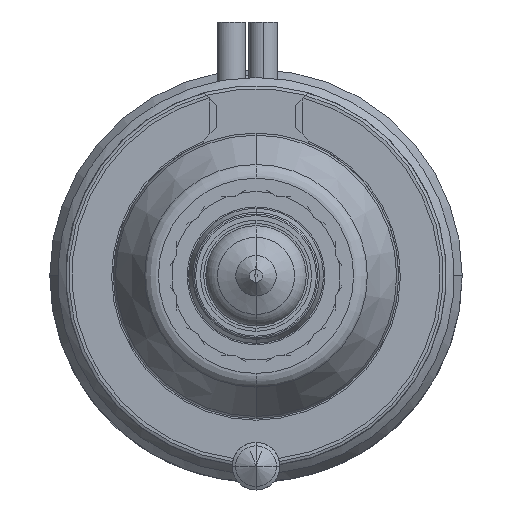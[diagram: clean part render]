
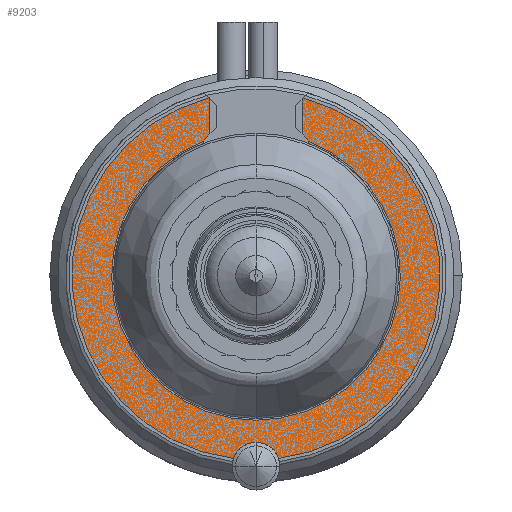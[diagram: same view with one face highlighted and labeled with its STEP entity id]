
A CAD part, front view. The second image highlights one B-rep face of the part: STEP entity #9203.
In plain terms, the highlighted planar face has unit normal (0, -1, 0).
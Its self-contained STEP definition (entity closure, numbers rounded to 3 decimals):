
#594=DIRECTION('',(0.707,0.,-0.707));
#595=VECTOR('',#594,0.092);
#596=CARTESIAN_POINT('',(-2.965,-22.,11.215));
#597=LINE('',#596,#595);
#1553=CARTESIAN_POINT('',(0.,-22.,6.2));
#1554=DIRECTION('',(0.,1.,0.));
#1555=DIRECTION('',(0.725,0.,0.689));
#1556=AXIS2_PLACEMENT_3D('',#1553,#1554,#1555);
#1568=CARTESIAN_POINT('',(0.,-22.,-12.));
#1569=DIRECTION('',(0.,1.,0.));
#1570=DIRECTION('',(-0.946,0.,0.325));
#1571=AXIS2_PLACEMENT_3D('',#1568,#1569,#1570);
#1587=CARTESIAN_POINT('',(0.,-22.,0.));
#1588=DIRECTION('',(0.,1.,0.));
#1589=DIRECTION('',(-0.122,0.,-0.992));
#1590=AXIS2_PLACEMENT_3D('',#1587,#1588,#1589);
#1599=CARTESIAN_POINT('',(0.,-22.,0.));
#1600=DIRECTION('',(0.,1.,0.));
#1601=DIRECTION('',(0.256,0.,0.967));
#1602=AXIS2_PLACEMENT_3D('',#1599,#1600,#1601);
#1615=DIRECTION('',(-0.707,0.,-0.707));
#1616=VECTOR('',#1615,0.092);
#1617=CARTESIAN_POINT('',(2.965,-22.,11.215));
#1618=LINE('',#1617,#1616);
#1623=DIRECTION('',(0.,0.,-1.));
#1624=VECTOR('',#1623,2.195);
#1625=CARTESIAN_POINT('',(2.9,-22.,11.15));
#1626=LINE('',#1625,#1624);
#1654=DIRECTION('',(0.,0.,1.));
#1655=VECTOR('',#1654,2.195);
#1656=CARTESIAN_POINT('',(-2.9,-22.,8.955));
#1657=LINE('',#1656,#1655);
#1689=CARTESIAN_POINT('',(0.,-22.,6.2));
#1690=DIRECTION('',(0.,1.,0.));
#1691=DIRECTION('',(-0.82,0.,0.572));
#1692=AXIS2_PLACEMENT_3D('',#1689,#1690,#1691);
#1704=CARTESIAN_POINT('',(0.,-22.,0.));
#1705=DIRECTION('',(0.,-1.,0.));
#1706=DIRECTION('',(-0.361,0.,0.933));
#1707=AXIS2_PLACEMENT_3D('',#1704,#1705,#1706);
#7391=CARTESIAN_POINT('',(2.965,-22.,11.215));
#7392=CARTESIAN_POINT('',(2.9,-22.,11.15));
#7393=VERTEX_POINT('',#7391);
#7394=VERTEX_POINT('',#7392);
#7399=CARTESIAN_POINT('',(-2.965,-22.,11.215));
#7400=CARTESIAN_POINT('',(-2.9,-22.,11.15));
#7401=VERTEX_POINT('',#7399);
#7402=VERTEX_POINT('',#7400);
#7437=CARTESIAN_POINT('',(2.9,-22.,8.955));
#7438=CARTESIAN_POINT('',(3.281,-22.,8.488));
#7439=VERTEX_POINT('',#7437);
#7440=VERTEX_POINT('',#7438);
#7441=CARTESIAN_POINT('',(-3.281,-22.,8.488));
#7442=CARTESIAN_POINT('',(-2.9,-22.,8.955));
#7443=VERTEX_POINT('',#7441);
#7444=VERTEX_POINT('',#7442);
#7586=CARTESIAN_POINT('',(-1.419,-22.,-11.513));
#7587=CARTESIAN_POINT('',(1.419,-22.,-11.513));
#7588=VERTEX_POINT('',#7586);
#7589=VERTEX_POINT('',#7587);
#9179=CARTESIAN_POINT('',(0.,-22.,0.));
#9180=DIRECTION('',(0.,-1.,0.));
#9181=DIRECTION('',(-1.,0.,0.));
#9182=AXIS2_PLACEMENT_3D('',#9179,#9180,#9181);
#9183=PLANE('',#9182);
#9184=ORIENTED_EDGE('',*,*,#8666,.F.);
#9186=ORIENTED_EDGE('',*,*,#9185,.T.);
#9187=ORIENTED_EDGE('',*,*,#8786,.T.);
#9189=ORIENTED_EDGE('',*,*,#9188,.F.);
#9191=ORIENTED_EDGE('',*,*,#9190,.F.);
#9193=ORIENTED_EDGE('',*,*,#9192,.T.);
#9194=ORIENTED_EDGE('',*,*,#9158,.F.);
#9196=ORIENTED_EDGE('',*,*,#9195,.F.);
#9198=ORIENTED_EDGE('',*,*,#9197,.F.);
#9200=ORIENTED_EDGE('',*,*,#9199,.T.);
#9201=EDGE_LOOP('',(#9184,#9186,#9187,#9189,#9191,#9193,#9194,#9196,#9198,
#9200));
#9202=FACE_OUTER_BOUND('',#9201,.F.);
#9203=ADVANCED_FACE('',(#9202),#9183,.T.);
#1557=CIRCLE('',#1556,4.);
#1572=CIRCLE('',#1571,1.5);
#1591=CIRCLE('',#1590,11.6);
#1603=CIRCLE('',#1602,11.6);
#1693=CIRCLE('',#1692,4.);
#1708=CIRCLE('',#1707,9.1);
#8666=EDGE_CURVE('',#7588,#7589,#1572,.T.);
#8786=EDGE_CURVE('',#7401,#7402,#597,.T.);
#9158=EDGE_CURVE('',#7439,#7440,#1557,.T.);
#9185=EDGE_CURVE('',#7588,#7401,#1591,.T.);
#9188=EDGE_CURVE('',#7444,#7402,#1657,.T.);
#9190=EDGE_CURVE('',#7443,#7444,#1693,.T.);
#9192=EDGE_CURVE('',#7443,#7440,#1708,.T.);
#9195=EDGE_CURVE('',#7394,#7439,#1626,.T.);
#9197=EDGE_CURVE('',#7393,#7394,#1618,.T.);
#9199=EDGE_CURVE('',#7393,#7589,#1603,.T.);
